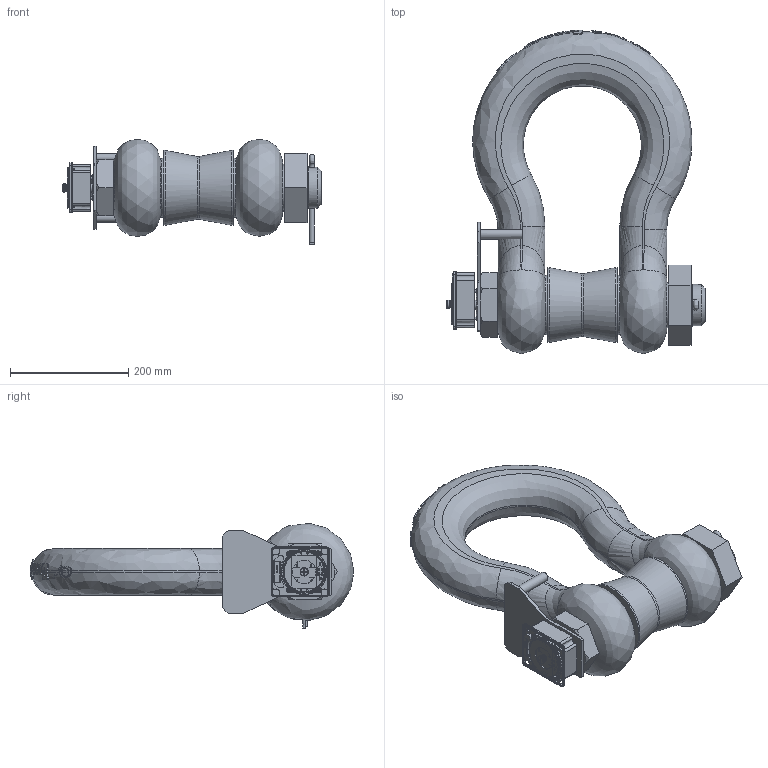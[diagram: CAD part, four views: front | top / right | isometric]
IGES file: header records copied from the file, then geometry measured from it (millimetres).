
Global section: file name: WLS120T; native system: Autodesk Inventor 2020; preprocessor: unknown; author: Achacko; date: 20191016.164344; units: millimetre
Bounding box: 437.85 x 548.39 x 178.3 mm (x, y, z)
Volume: 9735742.2 mm3; surface area: 764124.8 mm2
Topology: 25 solids, 39 shells, 6650 faces, 18358 edges, 11899 vertices
Faces by surface type: bspline 6650
